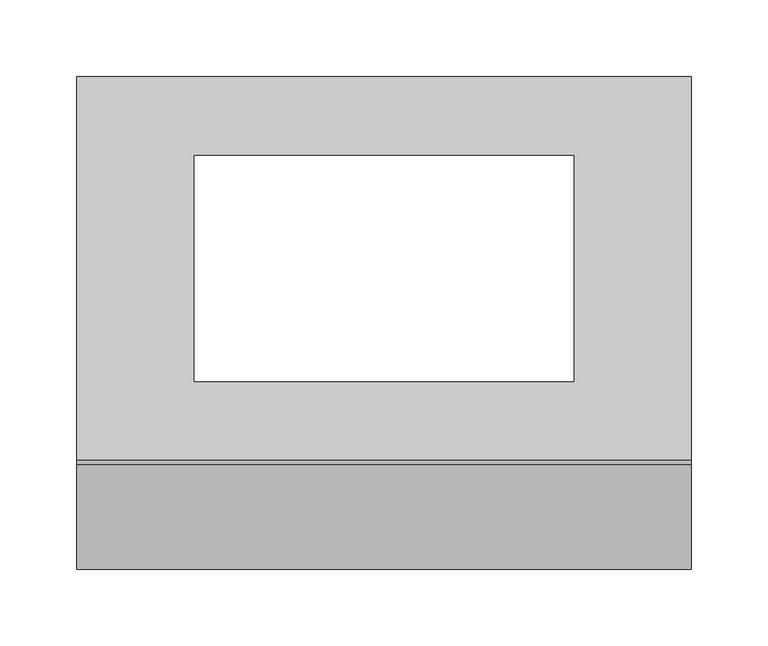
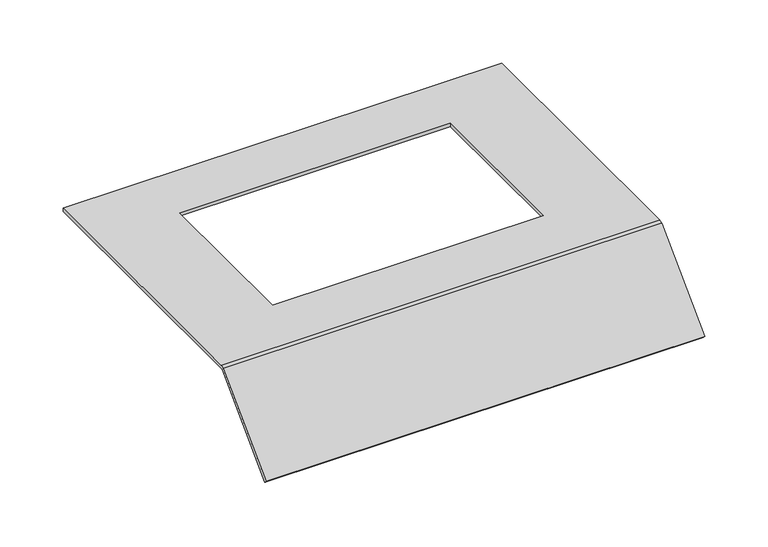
"""IFC4 building model written with IfcOpenShell, lengths in millimetres: proxy geometry, Electrical_Installation_Hager_Covers-With-Installation-Opening-E04 : Electrical_Installation_Hager_Covers-With-Installation-Opening-E04."""

from ifc_helpers import new_model, si_unit, frame, origin, place, context, project, spatial, polyline, circle_curve, source, transform, mapped, element, save
from ifc_brep_helpers import plane_surface, cylinder_surface, revolved_surface, advanced_brep


def electrical_fixtures_05cc857e(model_context):
    return source(origin(), model_context, "Body", "AdvancedBrep", [
        advanced_brep(
        [(0.0, 125.0, 40.5), (0.0, 125.0, 37.5), (0.0, -124.8229541, 37.5), (0.0, -125.8322972, 37.0819164), (0.0, -193.712807, -30.7985934), (0.0, -195.8341273, -28.6772731), (0.0, -127.8206472, 39.336207), (0.0, -125.0110025, 40.5), (400.0, 125.0, 40.5), (400.0, -125.0110025, 40.5), (400.0, -127.8206472, 39.336207), (400.0, -195.8341273, -28.6772731), (400.0, -193.712807, -30.7985934), (400.0, -125.8322972, 37.0819164), (400.0, -124.8229541, 37.5), (400.0, 125.0, 37.5), (323.5, 73.5, 37.5), (76.5, 73.5, 37.5), (76.5, -73.5, 37.5), (323.5, -73.5, 37.5), (76.5, 73.5, 40.5), (323.5, 73.5, 40.5), (323.5, -73.5, 40.5), (76.5, -73.5, 40.5)],
        [
            (0, 1),
            (1, 2),
            (2, 3, circle_curve(frame((0.0, -124.8229541, 36.0725733), z_axis=(1.0, 0.0, 0.0), x_axis=(0.0, 1.0, 0.0)), 1.4274267)),
            (3, 4),
            (4, 5),
            (5, 6),
            (6, 7, circle_curve(frame((0.0, -125.0110025, 36.5265623), z_axis=(-1.0, 0.0, 0.0), x_axis=(0.0, 1.0, 0.0)), 3.9734377)),
            (7, 0),
            (8, 9),
            (9, 10, circle_curve(frame((400.0, -125.0110025, 36.5265623), z_axis=(1.0, 0.0, 0.0), x_axis=(0.0, 1.0, 0.0)), 3.9734377)),
            (10, 11),
            (11, 12),
            (12, 13),
            (13, 14, circle_curve(frame((400.0, -124.8229541, 36.0725733), z_axis=(-1.0, 0.0, 0.0), x_axis=(0.0, 1.0, 0.0)), 1.4274267)),
            (14, 15),
            (15, 8),
            (0, 8),
            (15, 1),
            (14, 2),
            (16, 17),
            (17, 18),
            (18, 19),
            (19, 16),
            (13, 3),
            (12, 4),
            (11, 5),
            (10, 6),
            (9, 7),
            (20, 21),
            (21, 22),
            (22, 23),
            (23, 20),
            (16, 21),
            (20, 17),
            (23, 18),
            (22, 19),
        ],
        [
            plane_surface(frame((0.0, 0.3269864, 15.0), z_axis=(-1.0, 0.0, 0.0), x_axis=(0.0, 0.0, 1.0))),
            plane_surface(frame((400.0, 0.3269864, 15.0), z_axis=(1.0, 0.0, 0.0), x_axis=(0.0, 0.0, 1.0))),
            plane_surface(frame((0.0, 125.0, 40.5), z_axis=(0.0, 1.0, 0.0), x_axis=(1.0, 0.0, 0.0))),
            plane_surface(frame((0.0, 125.0, 37.5), z_axis=(0.0, 0.0, -1.0), x_axis=(1.0, 0.0, 0.0))),
            revolved_surface(polyline([(400.0, -123.3955274, 36.0725733), (0.0, -123.3955274, 36.0725733)]), (0.0, -124.8229541, 36.0725733), (1.0, 0.0, 0.0)),
            plane_surface(frame((0.0, -125.8322972, 37.0819164), z_axis=(0.0, 0.7071067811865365, -0.7071067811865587), x_axis=(1.0, 0.0, 0.0))),
            plane_surface(frame((0.0, -193.712807, -30.7985934), z_axis=(0.0, -0.7071067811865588, -0.7071067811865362), x_axis=(1.0, 0.0, 0.0))),
            plane_surface(frame((0.0, -195.8341273, -28.6772731), z_axis=(0.0, -0.7071067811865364, 0.7071067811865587), x_axis=(1.0, 0.0, 0.0))),
            cylinder_surface(frame((0.0, -125.0110025, 36.5265623), z_axis=(-1.0, 0.0, 0.0), x_axis=(0.0, 1.0, 0.0)), 3.9734377),
            plane_surface(frame((0.0, -125.0110025, 40.5), z_axis=(0.0, 0.0, 1.0), x_axis=(1.0, 0.0, 0.0))),
            plane_surface(frame((323.5, 73.5, 250.0), z_axis=(0.0, -1.0, 0.0), x_axis=(0.0, 0.0, -1.0))),
            plane_surface(frame((76.5, 73.5, 250.0), z_axis=(1.0, 0.0, 0.0), x_axis=(0.0, 0.0, -1.0))),
            plane_surface(frame((76.5, -73.5, 250.0), z_axis=(0.0, 1.0, 0.0), x_axis=(0.0, 0.0, -1.0))),
            plane_surface(frame((323.5, -73.5, 250.0), z_axis=(-1.0, 0.0, 0.0), x_axis=(0.0, 0.0, -1.0))),
        ],
        [
            (0, [[1, 2, 3, 4, 5, 6, 7, 8]]),
            (1, [[9, 10, 11, 12, 13, 14, 15, 16]]),
            (2, [[-1, 17, -16, 18]]),
            (3, [[-2, -18, -15, 19], [20, 21, 22, 23]]),
            (4, [[-3, -19, -14, 24]]),
            (5, [[-4, -24, -13, 25]]),
            (6, [[-5, -25, -12, 26]]),
            (7, [[-6, -26, -11, 27]]),
            (8, [[-7, -27, -10, 28]]),
            (9, [[-8, -28, -9, -17], [29, 30, 31, 32]]),
            (10, [[33, -29, 34, -20]]),
            (11, [[-34, -32, 35, -21]]),
            (12, [[-35, -31, 36, -22]]),
            (13, [[-33, -23, -36, -30]]),
        ],
    ),
    ])


if __name__ == "__main__":
    model = new_model("IFC4")
    model_context = context("Model", 3, world=origin())
    ifc_project = project(units=[si_unit("LENGTHUNIT", "METRE", prefix="MILLI")], contexts=[model_context])
    site = spatial("IfcSite", under=ifc_project)
    building = spatial("IfcBuilding", under=site)
    placement = place(None, origin())
    electrical_fixtures_shape = electrical_fixtures_05cc857e(model_context)
    element("IfcBuildingElementProxy", 1, Name="Electrical_Installation_Hager_Covers-With-Installation-Opening-E04 : Electrical_Installation_Hager_Covers-With-Installation-Opening-E04", ObjectType="Electrical_Installation_Hager_Covers-With-Installation-Opening-E04 : Electrical_Installation_Hager_Covers-With-Installation-Opening-E04", at=placement, inside=building, context=model_context, shape_type="MappedRepresentation", body=[
        mapped(electrical_fixtures_shape, transform((0.0, 0.0, 0.0), x_axis=(1.0, 0.0, 0.0), y_axis=(0.0, 1.0, 0.0), z_axis=(0.0, 0.0, 1.0))),
    ])
    save(model, "model.ifc")
